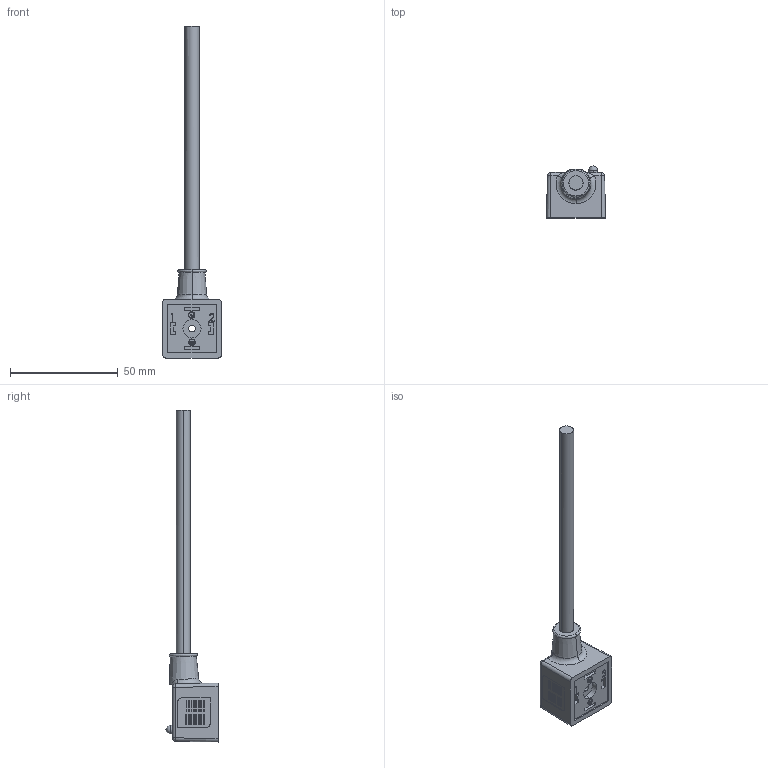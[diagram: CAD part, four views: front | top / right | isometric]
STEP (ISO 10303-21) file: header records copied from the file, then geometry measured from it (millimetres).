
FILE_DESCRIPTION (( 'STEP AP214' ), '1' );
FILE_NAME ('VAJ-ZZ20-00.STEP', '2021-07-26T18:39:56', ( '' ), ( '' ), 'SwSTEP 2.0', 'SolidWorks 2021', '' );
FILE_SCHEMA (( 'AUTOMOTIVE_DESIGN' ));
Length unit declared in the file: inch
Products named in the file (1): VAJ-ZZ20-00
Bounding box: 27.36 x 24.18 x 154.36 mm (x, y, z)
Volume: 19737.8 mm3; surface area: 7855.4 mm2
Topology: 1 solids, 1 shells, 328 faces, 797 edges, 521 vertices
Faces by surface type: plane 271, cylinder 34, bspline 8, torus 6, sphere 5, cone 4
Entity records: 14263 total; most frequent: CARTESIAN_POINT 2298, ORIENTED_EDGE 1580, DIRECTION 1479, EDGE_CURVE 790, LINE 683, VECTOR 683, VERTEX_POINT 519, AXIS2_PLACEMENT_3D 398
